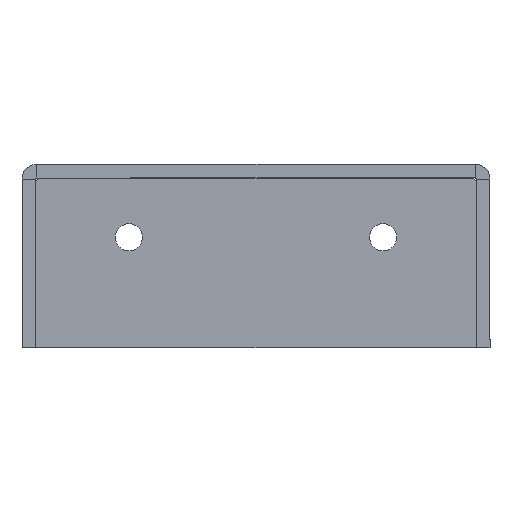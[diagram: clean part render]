
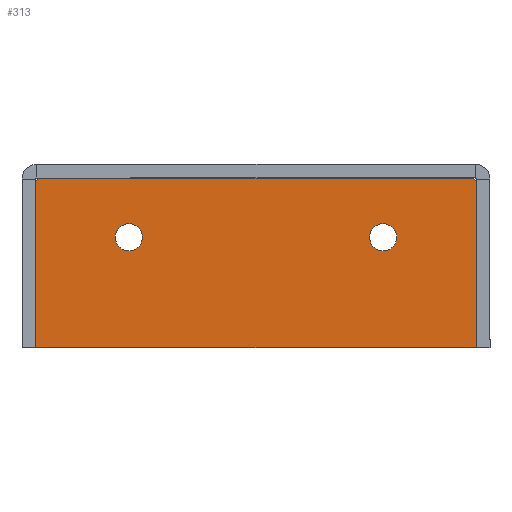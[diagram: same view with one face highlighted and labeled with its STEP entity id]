
A CAD part, left-side view. The second image highlights one B-rep face of the part: STEP entity #313.
In plain terms, the highlighted planar face has unit normal (-1, 0, 0) as drawn and (0, 0, -1) by its records, which use the part's own axes.
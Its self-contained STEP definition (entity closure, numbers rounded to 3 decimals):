
#32 = VERTEX_POINT ( 'NONE', #1540 ) ;
#35 = EDGE_CURVE ( 'NONE', #44, #32, #1561, .T. ) ;
#44 = VERTEX_POINT ( 'NONE', #1307 ) ;
#54 = EDGE_CURVE ( 'NONE', #94, #93, #1360, .T. ) ;
#93 = VERTEX_POINT ( 'NONE', #1465 ) ;
#94 = VERTEX_POINT ( 'NONE', #1440 ) ;
#179 = EDGE_CURVE ( 'NONE', #245, #181, #1571, .T. ) ;
#181 = VERTEX_POINT ( 'NONE', #1272 ) ;
#194 = VERTEX_POINT ( 'NONE', #1221 ) ;
#197 = VERTEX_POINT ( 'NONE', #1219 ) ;
#198 = VERTEX_POINT ( 'NONE', #1253 ) ;
#201 = EDGE_CURVE ( 'NONE', #198, #197, #1235, .T. ) ;
#237 = VERTEX_POINT ( 'NONE', #1158 ) ;
#240 = EDGE_CURVE ( 'NONE', #237, #194, #1154, .T. ) ;
#245 = VERTEX_POINT ( 'NONE', #1152 ) ;
#277 = ORIENTED_EDGE ( 'NONE', *, *, #424, .F. ) ;
#281 = ORIENTED_EDGE ( 'NONE', *, *, #282, .T. ) ;
#282 = EDGE_CURVE ( 'NONE', #181, #245, #553, .T. ) ;
#283 = EDGE_LOOP ( 'NONE', ( #323, #284, #385, #386, #370, #277 ) ) ;
#284 = ORIENTED_EDGE ( 'NONE', *, *, #384, .T. ) ;
#285 = ORIENTED_EDGE ( 'NONE', *, *, #371, .T. ) ;
#313 = ADVANCED_FACE ( 'NONE', ( #654, #636, #622 ), #612, .T. ) ;
#321 = ORIENTED_EDGE ( 'NONE', *, *, #201, .T. ) ;
#322 = ORIENTED_EDGE ( 'NONE', *, *, #179, .T. ) ;
#323 = ORIENTED_EDGE ( 'NONE', *, *, #35, .F. ) ;
#368 = EDGE_LOOP ( 'NONE', ( #285, #321 ) ) ;
#369 = EDGE_CURVE ( 'NONE', #94, #194, #665, .T. ) ;
#370 = ORIENTED_EDGE ( 'NONE', *, *, #240, .F. ) ;
#371 = EDGE_CURVE ( 'NONE', #197, #198, #712, .T. ) ;
#372 = EDGE_LOOP ( 'NONE', ( #281, #322 ) ) ;
#384 = EDGE_CURVE ( 'NONE', #44, #93, #719, .T. ) ;
#385 = ORIENTED_EDGE ( 'NONE', *, *, #54, .F. ) ;
#386 = ORIENTED_EDGE ( 'NONE', *, *, #369, .T. ) ;
#424 = EDGE_CURVE ( 'NONE', #32, #237, #745, .T. ) ;
#552 = DIRECTION ( 'NONE',  ( 0., 0., 1. ) ) ;
#553 = CIRCLE ( 'NONE', #563, 8. ) ;
#554 = CARTESIAN_POINT ( 'NONE',  ( -49., 51., 0. ) ) ;
#560 = VECTOR ( 'NONE', #572, 1000. ) ;
#561 = DIRECTION ( 'NONE',  ( 1., 0., 0. ) ) ;
#562 = CARTESIAN_POINT ( 'NONE',  ( 55., 35., 0. ) ) ;
#563 = AXIS2_PLACEMENT_3D ( 'NONE', #562, #552, #561 ) ;
#572 = DIRECTION ( 'NONE',  ( -0.707, 0.707, 0. ) ) ;
#612 = PLANE ( 'NONE',  #621 ) ;
#621 = AXIS2_PLACEMENT_3D ( 'NONE', #655, #675, #674 ) ;
#622 = FACE_OUTER_BOUND ( 'NONE', #283, .T. ) ;
#636 = FACE_BOUND ( 'NONE', #372, .T. ) ;
#654 = FACE_BOUND ( 'NONE', #368, .T. ) ;
#655 = CARTESIAN_POINT ( 'NONE',  ( 0., 100., 0. ) ) ;
#665 = LINE ( 'NONE', #554, #560 ) ;
#674 = DIRECTION ( 'NONE',  ( -1., 0., 0. ) ) ;
#675 = DIRECTION ( 'NONE',  ( 0., 0., -1. ) ) ;
#704 = DIRECTION ( 'NONE',  ( -0.707, -0.707, 0. ) ) ;
#705 = VECTOR ( 'NONE', #704, 1000. ) ;
#706 = CARTESIAN_POINT ( 'NONE',  ( 205., 35., 0. ) ) ;
#712 = CIRCLE ( 'NONE', #716, 8. ) ;
#713 = DIRECTION ( 'NONE',  ( 0., 0., 1. ) ) ;
#716 = AXIS2_PLACEMENT_3D ( 'NONE', #706, #713, #717 ) ;
#717 = DIRECTION ( 'NONE',  ( 1., 0., 0. ) ) ;
#718 = CARTESIAN_POINT ( 'NONE',  ( 179., -79., 0. ) ) ;
#719 = LINE ( 'NONE', #718, #705 ) ;
#745 = LINE ( 'NONE', #766, #765 ) ;
#763 = DIRECTION ( 'NONE',  ( -1., 0., 0. ) ) ;
#765 = VECTOR ( 'NONE', #763, 1000. ) ;
#766 = CARTESIAN_POINT ( 'NONE',  ( 0., 100., 0. ) ) ;
#1149 = DIRECTION ( 'NONE',  ( 0., -1., 0. ) ) ;
#1152 = CARTESIAN_POINT ( 'NONE',  ( 47., 35., 0. ) ) ;
#1154 = LINE ( 'NONE', #1163, #1159 ) ;
#1158 = CARTESIAN_POINT ( 'NONE',  ( 0., 100., 0. ) ) ;
#1159 = VECTOR ( 'NONE', #1149, 1000. ) ;
#1163 = CARTESIAN_POINT ( 'NONE',  ( 0., 0., 0. ) ) ;
#1219 = CARTESIAN_POINT ( 'NONE',  ( 213., 35., 0. ) ) ;
#1221 = CARTESIAN_POINT ( 'NONE',  ( 0., 2., 0. ) ) ;
#1235 = CIRCLE ( 'NONE', #1256, 8. ) ;
#1243 = DIRECTION ( 'NONE',  ( 0., 0., 1. ) ) ;
#1245 = CARTESIAN_POINT ( 'NONE',  ( 205., 35., 0. ) ) ;
#1246 = DIRECTION ( 'NONE',  ( 1., 0., 0. ) ) ;
#1253 = CARTESIAN_POINT ( 'NONE',  ( 197., 35., 0. ) ) ;
#1256 = AXIS2_PLACEMENT_3D ( 'NONE', #1245, #1243, #1246 ) ;
#1272 = CARTESIAN_POINT ( 'NONE',  ( 63., 35., 0. ) ) ;
#1307 = CARTESIAN_POINT ( 'NONE',  ( 260., 2., 0. ) ) ;
#1356 = VECTOR ( 'NONE', #1361, 1000. ) ;
#1360 = LINE ( 'NONE', #1362, #1356 ) ;
#1361 = DIRECTION ( 'NONE',  ( 1., 0., 0. ) ) ;
#1362 = CARTESIAN_POINT ( 'NONE',  ( 0., 0., 0. ) ) ;
#1440 = CARTESIAN_POINT ( 'NONE',  ( 2., 0., 0. ) ) ;
#1465 = CARTESIAN_POINT ( 'NONE',  ( 258., 0., 0. ) ) ;
#1540 = CARTESIAN_POINT ( 'NONE',  ( 260., 100., 0. ) ) ;
#1558 = DIRECTION ( 'NONE',  ( 0., 1., 0. ) ) ;
#1559 = VECTOR ( 'NONE', #1558, 1000. ) ;
#1560 = CARTESIAN_POINT ( 'NONE',  ( 260., 0., 0. ) ) ;
#1561 = LINE ( 'NONE', #1560, #1559 ) ;
#1567 = DIRECTION ( 'NONE',  ( 1., 0., 0. ) ) ;
#1571 = CIRCLE ( 'NONE', #1575, 8. ) ;
#1572 = CARTESIAN_POINT ( 'NONE',  ( 55., 35., 0. ) ) ;
#1575 = AXIS2_PLACEMENT_3D ( 'NONE', #1572, #1576, #1567 ) ;
#1576 = DIRECTION ( 'NONE',  ( 0., 0., 1. ) ) ;
